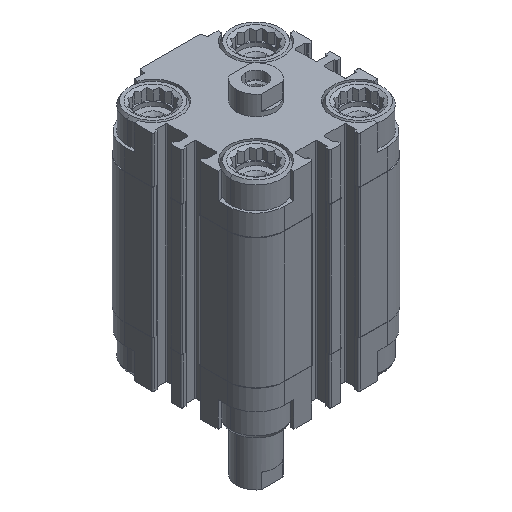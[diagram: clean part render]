
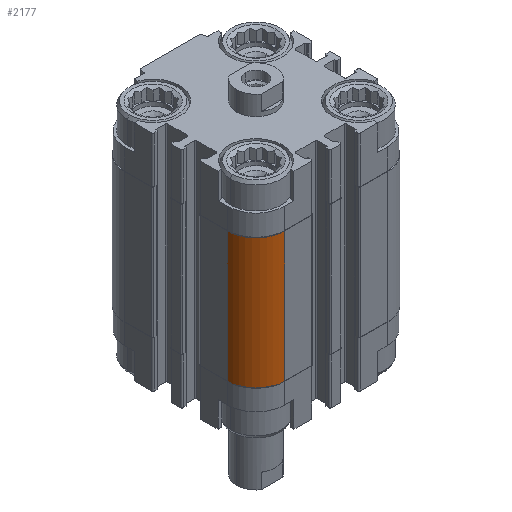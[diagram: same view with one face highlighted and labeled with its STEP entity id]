
A CAD part, isometric view. The second image highlights one B-rep face of the part: STEP entity #2177.
In plain terms, the highlighted cylindrical face has radius 9 mm (diameter 18 mm), a partial arc.
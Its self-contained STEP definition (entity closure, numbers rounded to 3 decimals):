
#338 = CARTESIAN_POINT ( 'NONE',  ( -16., -16., -55. ) ) ;
#465 = AXIS2_PLACEMENT_3D ( 'NONE', #338, #11184, #5589 ) ;
#958 = VECTOR ( 'NONE', #10539, 1000. ) ;
#1300 = CARTESIAN_POINT ( 'NONE',  ( -16., -16., -14.5 ) ) ;
#1900 = VECTOR ( 'NONE', #12789, 1000. ) ;
#2177 = ADVANCED_FACE ( 'NONE', ( #8839 ), #5957, .T. ) ;
#2575 = EDGE_CURVE ( 'NONE', #5295, #21668, #21264, .T. ) ;
#5295 = VERTEX_POINT ( 'NONE', #20949 ) ;
#5376 = EDGE_CURVE ( 'NONE', #21668, #13585, #15449, .T. ) ;
#5589 = DIRECTION ( 'NONE',  ( -1., 0., 0. ) ) ;
#5957 = CYLINDRICAL_SURFACE ( 'NONE', #21699, 9. ) ;
#7054 = ORIENTED_EDGE ( 'NONE', *, *, #5376, .T. ) ;
#8108 = ORIENTED_EDGE ( 'NONE', *, *, #17531, .F. ) ;
#8839 = FACE_OUTER_BOUND ( 'NONE', #15884, .T. ) ;
#8856 = EDGE_CURVE ( 'NONE', #17991, #13585, #13611, .T. ) ;
#10539 = DIRECTION ( 'NONE',  ( 0., 0., 1. ) ) ;
#10980 = DIRECTION ( 'NONE',  ( 0., 0., -1. ) ) ;
#11184 = DIRECTION ( 'NONE',  ( 0., 0., 1. ) ) ;
#11584 = DIRECTION ( 'NONE',  ( -1., 0., 0. ) ) ;
#12789 = DIRECTION ( 'NONE',  ( 0., 0., 1. ) ) ;
#13054 = ORIENTED_EDGE ( 'NONE', *, *, #8856, .F. ) ;
#13585 = VERTEX_POINT ( 'NONE', #22349 ) ;
#13611 = CIRCLE ( 'NONE', #17999, 9. ) ;
#15035 = LINE ( 'NONE', #22018, #1900 ) ;
#15449 = LINE ( 'NONE', #18905, #958 ) ;
#15801 = CARTESIAN_POINT ( 'NONE',  ( -16., -16., -55. ) ) ;
#15884 = EDGE_LOOP ( 'NONE', ( #13054, #8108, #18605, #7054 ) ) ;
#17531 = EDGE_CURVE ( 'NONE', #5295, #17991, #15035, .T. ) ;
#17991 = VERTEX_POINT ( 'NONE', #18570 ) ;
#17999 = AXIS2_PLACEMENT_3D ( 'NONE', #1300, #18794, #11584 ) ;
#18570 = CARTESIAN_POINT ( 'NONE',  ( -25., -16., -14.5 ) ) ;
#18605 = ORIENTED_EDGE ( 'NONE', *, *, #2575, .T. ) ;
#18794 = DIRECTION ( 'NONE',  ( 0., 0., 1. ) ) ;
#18905 = CARTESIAN_POINT ( 'NONE',  ( -16., -25., -55. ) ) ;
#19799 = DIRECTION ( 'NONE',  ( -1., 0., 0. ) ) ;
#20949 = CARTESIAN_POINT ( 'NONE',  ( -25., -16., -55. ) ) ;
#21264 = CIRCLE ( 'NONE', #465, 9. ) ;
#21668 = VERTEX_POINT ( 'NONE', #21899 ) ;
#21699 = AXIS2_PLACEMENT_3D ( 'NONE', #15801, #10980, #19799 ) ;
#21899 = CARTESIAN_POINT ( 'NONE',  ( -16., -25., -55. ) ) ;
#22018 = CARTESIAN_POINT ( 'NONE',  ( -25., -16., -55. ) ) ;
#22349 = CARTESIAN_POINT ( 'NONE',  ( -16., -25., -14.5 ) ) ;
